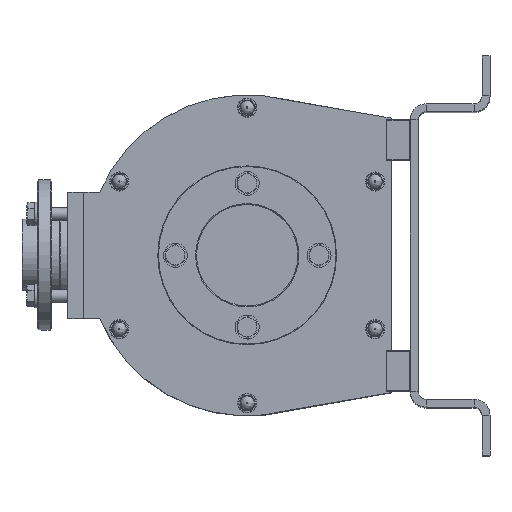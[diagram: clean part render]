
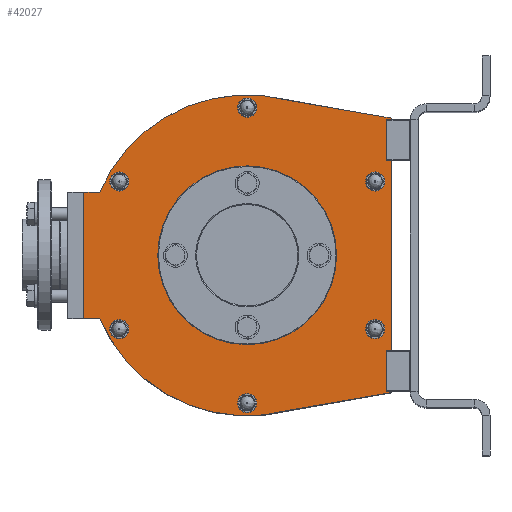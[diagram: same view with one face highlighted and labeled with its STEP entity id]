
A CAD part, top view. The second image highlights one B-rep face of the part: STEP entity #42027.
In plain terms, the highlighted planar face has unit normal (0, 0, 1).
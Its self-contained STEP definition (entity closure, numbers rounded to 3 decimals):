
#1718=FACE_BOUND('',#5946,.T.);
#1719=FACE_BOUND('',#5947,.T.);
#1720=FACE_BOUND('',#5948,.T.);
#1721=FACE_BOUND('',#5949,.T.);
#1722=FACE_BOUND('',#5950,.T.);
#1723=FACE_BOUND('',#5951,.T.);
#1724=FACE_BOUND('',#5952,.T.);
#2103=PLANE('',#44678);
#3552=FACE_OUTER_BOUND('',#5945,.T.);
#5945=EDGE_LOOP('',(#27763,#27764,#27765,#27766,#27767,#27768,#27769,#27770));
#5946=EDGE_LOOP('',(#27771));
#5947=EDGE_LOOP('',(#27772));
#5948=EDGE_LOOP('',(#27773));
#5949=EDGE_LOOP('',(#27774));
#5950=EDGE_LOOP('',(#27775));
#5951=EDGE_LOOP('',(#27776));
#5952=EDGE_LOOP('',(#27777));
#8607=LINE('',#62811,#11686);
#8608=LINE('',#62813,#11687);
#8609=LINE('',#62817,#11688);
#8610=LINE('',#62819,#11689);
#8611=LINE('',#62821,#11690);
#8612=LINE('',#62824,#11691);
#11686=VECTOR('',#50067,10.);
#11687=VECTOR('',#50068,10.);
#11688=VECTOR('',#50071,10.);
#11689=VECTOR('',#50072,10.);
#11690=VECTOR('',#50073,10.);
#11691=VECTOR('',#50076,10.);
#14697=CIRCLE('',#44679,201.);
#14698=CIRCLE('',#44680,201.);
#14699=CIRCLE('',#44681,7.25);
#14700=CIRCLE('',#44682,7.25);
#14701=CIRCLE('',#44683,7.25);
#14702=CIRCLE('',#44684,78.25);
#14703=CIRCLE('',#44685,7.25);
#14704=CIRCLE('',#44686,7.25);
#14705=CIRCLE('',#44687,7.25);
#17008=VERTEX_POINT('',#62809);
#17009=VERTEX_POINT('',#62810);
#17010=VERTEX_POINT('',#62812);
#17011=VERTEX_POINT('',#62814);
#17012=VERTEX_POINT('',#62816);
#17013=VERTEX_POINT('',#62818);
#17014=VERTEX_POINT('',#62820);
#17015=VERTEX_POINT('',#62822);
#17016=VERTEX_POINT('',#62825);
#17017=VERTEX_POINT('',#62827);
#17018=VERTEX_POINT('',#62829);
#17019=VERTEX_POINT('',#62831);
#17020=VERTEX_POINT('',#62833);
#17021=VERTEX_POINT('',#62835);
#17022=VERTEX_POINT('',#62837);
#21088=EDGE_CURVE('',#17008,#17009,#8607,.T.);
#21089=EDGE_CURVE('',#17010,#17008,#8608,.T.);
#21090=EDGE_CURVE('',#17011,#17010,#14697,.T.);
#21091=EDGE_CURVE('',#17012,#17011,#8609,.T.);
#21092=EDGE_CURVE('',#17013,#17012,#8610,.T.);
#21093=EDGE_CURVE('',#17014,#17013,#8611,.T.);
#21094=EDGE_CURVE('',#17015,#17014,#14698,.T.);
#21095=EDGE_CURVE('',#17009,#17015,#8612,.T.);
#21096=EDGE_CURVE('',#17016,#17016,#14699,.T.);
#21097=EDGE_CURVE('',#17017,#17017,#14700,.T.);
#21098=EDGE_CURVE('',#17018,#17018,#14701,.T.);
#21099=EDGE_CURVE('',#17019,#17019,#14702,.T.);
#21100=EDGE_CURVE('',#17020,#17020,#14703,.T.);
#21101=EDGE_CURVE('',#17021,#17021,#14704,.T.);
#21102=EDGE_CURVE('',#17022,#17022,#14705,.T.);
#27763=ORIENTED_EDGE('',*,*,#21088,.F.);
#27764=ORIENTED_EDGE('',*,*,#21089,.F.);
#27765=ORIENTED_EDGE('',*,*,#21090,.F.);
#27766=ORIENTED_EDGE('',*,*,#21091,.F.);
#27767=ORIENTED_EDGE('',*,*,#21092,.F.);
#27768=ORIENTED_EDGE('',*,*,#21093,.F.);
#27769=ORIENTED_EDGE('',*,*,#21094,.F.);
#27770=ORIENTED_EDGE('',*,*,#21095,.F.);
#27771=ORIENTED_EDGE('',*,*,#21096,.F.);
#27772=ORIENTED_EDGE('',*,*,#21097,.F.);
#27773=ORIENTED_EDGE('',*,*,#21098,.F.);
#27774=ORIENTED_EDGE('',*,*,#21099,.F.);
#27775=ORIENTED_EDGE('',*,*,#21100,.F.);
#27776=ORIENTED_EDGE('',*,*,#21101,.F.);
#27777=ORIENTED_EDGE('',*,*,#21102,.F.);
#42027=ADVANCED_FACE('',(#3552,#1718,#1719,#1720,#1721,#1722,#1723,#1724),
#2103,.T.);
#44678=AXIS2_PLACEMENT_3D('',#62808,#50065,#50066);
#44679=AXIS2_PLACEMENT_3D('',#62815,#50069,#50070);
#44680=AXIS2_PLACEMENT_3D('',#62823,#50074,#50075);
#44681=AXIS2_PLACEMENT_3D('',#62826,#50077,#50078);
#44682=AXIS2_PLACEMENT_3D('',#62828,#50079,#50080);
#44683=AXIS2_PLACEMENT_3D('',#62830,#50081,#50082);
#44684=AXIS2_PLACEMENT_3D('',#62832,#50083,#50084);
#44685=AXIS2_PLACEMENT_3D('',#62834,#50085,#50086);
#44686=AXIS2_PLACEMENT_3D('',#62836,#50087,#50088);
#44687=AXIS2_PLACEMENT_3D('',#62838,#50089,#50090);
#50065=DIRECTION('center_axis',(0.,0.,
1.));
#50066=DIRECTION('ref_axis',(0.,1.,0.));
#50067=DIRECTION('',(0.,-1.,0.));
#50068=DIRECTION('',(0.985,-0.17,0.));
#50069=DIRECTION('center_axis',(0.,0.,
-1.));
#50070=DIRECTION('ref_axis',(-0.259,-0.966,0.));
#50071=DIRECTION('',(1.,0.,0.));
#50072=DIRECTION('',(0.,1.,0.));
#50073=DIRECTION('',(-1.,0.,0.));
#50074=DIRECTION('center_axis',(0.,0.,
-1.));
#50075=DIRECTION('ref_axis',(0.92,0.393,0.));
#50076=DIRECTION('',(-0.985,-0.17,0.));
#50077=DIRECTION('center_axis',(0.,0.,
1.));
#50078=DIRECTION('ref_axis',(0.,-1.,0.));
#50079=DIRECTION('center_axis',(0.,0.,
1.));
#50080=DIRECTION('ref_axis',(0.,-1.,0.));
#50081=DIRECTION('center_axis',(0.,0.,
1.));
#50082=DIRECTION('ref_axis',(0.,-1.,0.));
#50083=DIRECTION('center_axis',(0.,0.,
1.));
#50084=DIRECTION('ref_axis',(0.,-1.,0.));
#50085=DIRECTION('center_axis',(0.,0.,
1.));
#50086=DIRECTION('ref_axis',(0.,-1.,0.));
#50087=DIRECTION('center_axis',(0.,0.,
1.));
#50088=DIRECTION('ref_axis',(0.,-1.,0.));
#50089=DIRECTION('center_axis',(0.,0.,
1.));
#50090=DIRECTION('ref_axis',(0.,-1.,0.));
#62808=CARTESIAN_POINT('Origin',(3.323,-2.655,518.4));
#62809=CARTESIAN_POINT('',(178.741,169.345,518.4));
#62810=CARTESIAN_POINT('',(178.741,-174.655,518.4));
#62811=CARTESIAN_POINT('',(178.741,169.345,518.4));
#62812=CARTESIAN_POINT('',(50.615,191.496,518.4));
#62813=CARTESIAN_POINT('',(50.615,191.496,518.4));
#62814=CARTESIAN_POINT('',(-186.232,76.345,518.4));
#62815=CARTESIAN_POINT('Origin',(-1.408,-2.655,518.4));
#62816=CARTESIAN_POINT('',(-206.259,76.345,518.4));
#62817=CARTESIAN_POINT('',(-206.259,76.345,518.4));
#62818=CARTESIAN_POINT('',(-206.259,-81.655,518.4));
#62819=CARTESIAN_POINT('',(-206.259,-81.655,518.4));
#62820=CARTESIAN_POINT('',(-186.232,-81.655,518.4));
#62821=CARTESIAN_POINT('',(-186.232,-81.655,518.4));
#62822=CARTESIAN_POINT('',(50.615,-196.806,518.4));
#62823=CARTESIAN_POINT('Origin',(-1.408,-2.655,518.4));
#62824=CARTESIAN_POINT('',(178.741,-174.655,518.4));
#62825=CARTESIAN_POINT('',(158.807,-87.905,518.4));
#62826=CARTESIAN_POINT('Origin',(158.807,-95.155,518.4));
#62827=CARTESIAN_POINT('',(-1.408,-180.405,518.4));
#62828=CARTESIAN_POINT('Origin',(-1.408,-187.655,518.4));
#62829=CARTESIAN_POINT('',(-161.622,-87.905,518.4));
#62830=CARTESIAN_POINT('Origin',(-161.622,-95.155,518.4));
#62831=CARTESIAN_POINT('',(-1.408,75.595,518.4));
#62832=CARTESIAN_POINT('Origin',(-1.408,-2.655,518.4));
#62833=CARTESIAN_POINT('',(-161.622,97.095,518.4));
#62834=CARTESIAN_POINT('Origin',(-161.622,89.845,518.4));
#62835=CARTESIAN_POINT('',(-1.408,189.595,518.4));
#62836=CARTESIAN_POINT('Origin',(-1.408,182.345,518.4));
#62837=CARTESIAN_POINT('',(158.807,97.095,518.4));
#62838=CARTESIAN_POINT('Origin',(158.807,89.845,518.4));
